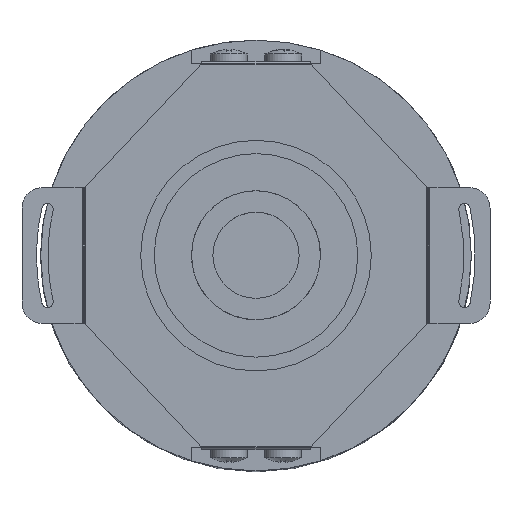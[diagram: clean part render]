
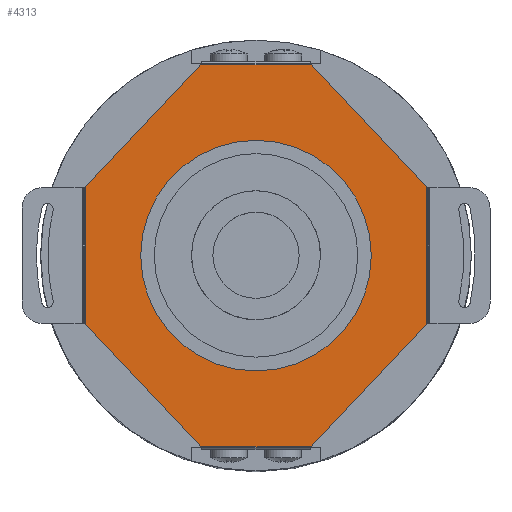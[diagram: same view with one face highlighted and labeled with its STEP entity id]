
A CAD part, top view. The second image highlights one B-rep face of the part: STEP entity #4313.
In plain terms, the highlighted planar face has unit normal (0, 0, 1).
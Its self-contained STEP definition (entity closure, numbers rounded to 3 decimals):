
#69 = VERTEX_POINT ( 'NONE', #12584 ) ;
#157 = AXIS2_PLACEMENT_3D ( 'NONE', #9156, #3520, #7893 ) ;
#921 = FACE_BOUND ( 'NONE', #13330, .T. ) ;
#965 = CARTESIAN_POINT ( 'NONE',  ( -8.12, 28.123, 25.814 ) ) ;
#1010 = CARTESIAN_POINT ( 'NONE',  ( -25.123, -10.185, 25.814 ) ) ;
#1721 = VECTOR ( 'NONE', #12138, 1000. ) ;
#1775 = CARTESIAN_POINT ( 'NONE',  ( 25.123, -0.05, 25.814 ) ) ;
#1813 = DIRECTION ( 'NONE',  ( 0., 1., 0. ) ) ;
#1854 = AXIS2_PLACEMENT_3D ( 'NONE', #9106, #9084, #9070 ) ;
#1915 = VERTEX_POINT ( 'NONE', #13311 ) ;
#1940 = VERTEX_POINT ( 'NONE', #7029 ) ;
#2091 = ORIENTED_EDGE ( 'NONE', *, *, #9501, .T. ) ;
#2347 = VECTOR ( 'NONE', #13152, 1000. ) ;
#2757 = FACE_OUTER_BOUND ( 'NONE', #10597, .T. ) ;
#2769 = ORIENTED_EDGE ( 'NONE', *, *, #12929, .T. ) ;
#2802 = EDGE_CURVE ( 'NONE', #10489, #2944, #12848, .T. ) ;
#2806 = CARTESIAN_POINT ( 'NONE',  ( -25.123, -0.05, 25.814 ) ) ;
#2895 = ORIENTED_EDGE ( 'NONE', *, *, #12972, .T. ) ;
#2944 = VERTEX_POINT ( 'NONE', #7487 ) ;
#3520 = DIRECTION ( 'NONE',  ( 0., 0., 1. ) ) ;
#3555 = LINE ( 'NONE', #7523, #10302 ) ;
#3719 = DIRECTION ( 'NONE',  ( 0., 0., -1. ) ) ;
#3749 = CARTESIAN_POINT ( 'NONE',  ( 0., -0.05, 25.814 ) ) ;
#3769 = DIRECTION ( 'NONE',  ( 1., 0., 0. ) ) ;
#3963 = CARTESIAN_POINT ( 'NONE',  ( 17., -0.05, 25.814 ) ) ;
#4309 = LINE ( 'NONE', #11434, #13175 ) ;
#4313 = ADVANCED_FACE ( 'NONE', ( #921, #2757 ), #12313, .T. ) ;
#4518 = VECTOR ( 'NONE', #13040, 1000. ) ;
#4880 = LINE ( 'NONE', #7309, #10319 ) ;
#5082 = EDGE_CURVE ( 'NONE', #5715, #12484, #4309, .T. ) ;
#5229 = ORIENTED_EDGE ( 'NONE', *, *, #6478, .T. ) ;
#5315 = ORIENTED_EDGE ( 'NONE', *, *, #5082, .T. ) ;
#5388 = ORIENTED_EDGE ( 'NONE', *, *, #2802, .T. ) ;
#5715 = VERTEX_POINT ( 'NONE', #6437 ) ;
#5743 = LINE ( 'NONE', #12124, #1721 ) ;
#6065 = VECTOR ( 'NONE', #1813, 1000. ) ;
#6437 = CARTESIAN_POINT ( 'NONE',  ( 8.12, -28.223, 25.814 ) ) ;
#6478 = EDGE_CURVE ( 'NONE', #12484, #10596, #9133, .T. ) ;
#6590 = VERTEX_POINT ( 'NONE', #1010 ) ;
#6610 = VERTEX_POINT ( 'NONE', #965 ) ;
#7029 = CARTESIAN_POINT ( 'NONE',  ( -8.12, -28.223, 25.814 ) ) ;
#7309 = CARTESIAN_POINT ( 'NONE',  ( 0., -28.223, 25.814 ) ) ;
#7360 = DIRECTION ( 'NONE',  ( 1., 0., 0. ) ) ;
#7487 = CARTESIAN_POINT ( 'NONE',  ( -17., -0.05, 25.814 ) ) ;
#7523 = CARTESIAN_POINT ( 'NONE',  ( -8.12, 28.123, 25.814 ) ) ;
#7622 = DIRECTION ( 'NONE',  ( -0.686, -0.728, 0. ) ) ;
#7787 = DIRECTION ( 'NONE',  ( 0.686, -0.728, 0. ) ) ;
#7893 = DIRECTION ( 'NONE',  ( 1., 0., 0. ) ) ;
#8052 = CARTESIAN_POINT ( 'NONE',  ( -25.123, -10.185, 25.814 ) ) ;
#8099 = ORIENTED_EDGE ( 'NONE', *, *, #14376, .T. ) ;
#9070 = DIRECTION ( 'NONE',  ( 1., 0., 0. ) ) ;
#9084 = DIRECTION ( 'NONE',  ( 0., 0., -1. ) ) ;
#9106 = CARTESIAN_POINT ( 'NONE',  ( 0., -0.05, 25.814 ) ) ;
#9133 = LINE ( 'NONE', #1775, #6065 ) ;
#9156 = CARTESIAN_POINT ( 'NONE',  ( 0., -0.05, 25.814 ) ) ;
#9308 = ORIENTED_EDGE ( 'NONE', *, *, #12282, .T. ) ;
#9406 = CARTESIAN_POINT ( 'NONE',  ( 25.123, 10.085, 25.814 ) ) ;
#9501 = EDGE_CURVE ( 'NONE', #10596, #1915, #9687, .T. ) ;
#9687 = LINE ( 'NONE', #13166, #2347 ) ;
#9955 = EDGE_CURVE ( 'NONE', #69, #6590, #11057, .T. ) ;
#10190 = EDGE_CURVE ( 'NONE', #6590, #1940, #10377, .T. ) ;
#10302 = VECTOR ( 'NONE', #7622, 1000. ) ;
#10319 = VECTOR ( 'NONE', #7360, 1000. ) ;
#10377 = LINE ( 'NONE', #8052, #14348 ) ;
#10489 = VERTEX_POINT ( 'NONE', #3963 ) ;
#10596 = VERTEX_POINT ( 'NONE', #9406 ) ;
#10597 = EDGE_LOOP ( 'NONE', ( #2895, #5315, #5229, #2091, #9308, #2769, #14815, #13969 ) ) ;
#10956 = CARTESIAN_POINT ( 'NONE',  ( 25.123, -10.185, 25.814 ) ) ;
#11057 = LINE ( 'NONE', #2806, #4518 ) ;
#11434 = CARTESIAN_POINT ( 'NONE',  ( 8.12, -28.223, 25.814 ) ) ;
#11436 = DIRECTION ( 'NONE',  ( 0.686, 0.728, 0. ) ) ;
#11647 = AXIS2_PLACEMENT_3D ( 'NONE', #3749, #3719, #3769 ) ;
#12124 = CARTESIAN_POINT ( 'NONE',  ( 0., 28.123, 25.814 ) ) ;
#12138 = DIRECTION ( 'NONE',  ( -1., 0., 0. ) ) ;
#12282 = EDGE_CURVE ( 'NONE', #1915, #6610, #5743, .T. ) ;
#12313 = PLANE ( 'NONE',  #157 ) ;
#12484 = VERTEX_POINT ( 'NONE', #10956 ) ;
#12584 = CARTESIAN_POINT ( 'NONE',  ( -25.123, 10.085, 25.814 ) ) ;
#12848 = CIRCLE ( 'NONE', #1854, 17. ) ;
#12929 = EDGE_CURVE ( 'NONE', #6610, #69, #3555, .T. ) ;
#12972 = EDGE_CURVE ( 'NONE', #1940, #5715, #4880, .T. ) ;
#13040 = DIRECTION ( 'NONE',  ( 0., -1., 0. ) ) ;
#13152 = DIRECTION ( 'NONE',  ( -0.686, 0.728, 0. ) ) ;
#13166 = CARTESIAN_POINT ( 'NONE',  ( 25.123, 10.085, 25.814 ) ) ;
#13175 = VECTOR ( 'NONE', #11436, 1000. ) ;
#13311 = CARTESIAN_POINT ( 'NONE',  ( 8.12, 28.123, 25.814 ) ) ;
#13330 = EDGE_LOOP ( 'NONE', ( #5388, #8099 ) ) ;
#13969 = ORIENTED_EDGE ( 'NONE', *, *, #10190, .T. ) ;
#14348 = VECTOR ( 'NONE', #7787, 1000. ) ;
#14376 = EDGE_CURVE ( 'NONE', #2944, #10489, #14681, .T. ) ;
#14681 = CIRCLE ( 'NONE', #11647, 17. ) ;
#14815 = ORIENTED_EDGE ( 'NONE', *, *, #9955, .T. ) ;
